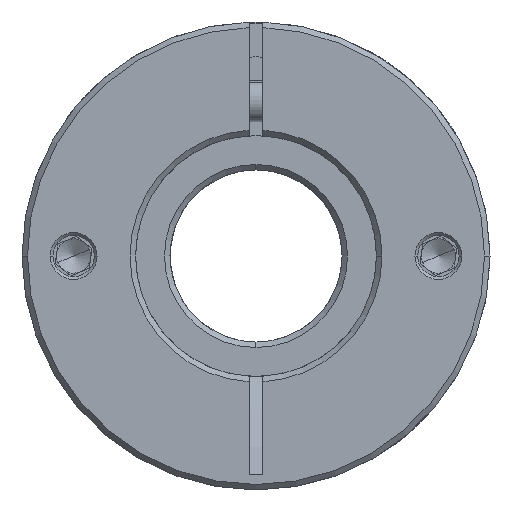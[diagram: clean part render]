
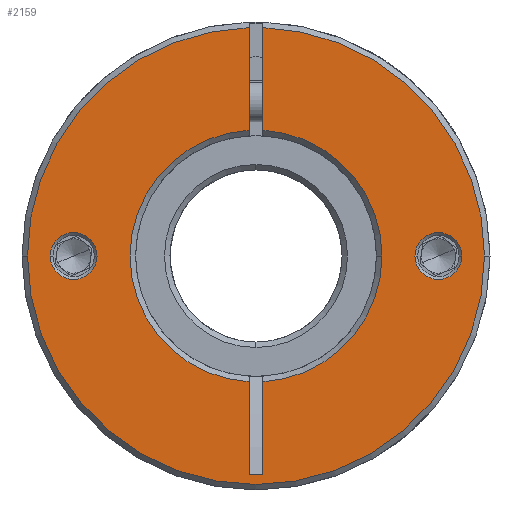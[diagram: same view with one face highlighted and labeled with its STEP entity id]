
A CAD part, front view. The second image highlights one B-rep face of the part: STEP entity #2159.
In plain terms, the highlighted planar face has unit normal (0, -1, 0).
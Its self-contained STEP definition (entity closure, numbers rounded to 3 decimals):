
#41 = DIRECTION ( 'NONE',  ( 0., 1., 0. ) ) ;
#98 = VERTEX_POINT ( 'NONE', #4756 ) ;
#114 = DIRECTION ( 'NONE',  ( 0., 1., 0. ) ) ;
#186 = DIRECTION ( 'NONE',  ( 0., 0., -1. ) ) ;
#209 = ORIENTED_EDGE ( 'NONE', *, *, #2574, .F. ) ;
#240 = CARTESIAN_POINT ( 'NONE',  ( -3.735, -47.045, 49.727 ) ) ;
#310 = EDGE_CURVE ( 'NONE', #11961, #12523, #12232, .T. ) ;
#316 = CIRCLE ( 'NONE', #4398, 18.3 ) ;
#349 = VERTEX_POINT ( 'NONE', #13326 ) ;
#420 = DIRECTION ( 'NONE',  ( 0., 0., -1. ) ) ;
#776 = ORIENTED_EDGE ( 'NONE', *, *, #11188, .T. ) ;
#827 = LINE ( 'NONE', #7359, #5605 ) ;
#919 = LINE ( 'NONE', #10530, #9726 ) ;
#974 = DIRECTION ( 'NONE',  ( 1., 0., 0. ) ) ;
#1081 = LINE ( 'NONE', #12415, #5064 ) ;
#1167 = DIRECTION ( 'NONE',  ( 0., -1., 0. ) ) ;
#1281 = CARTESIAN_POINT ( 'NONE',  ( -2.735, -47.045, 68. ) ) ;
#1319 = VERTEX_POINT ( 'NONE', #4258 ) ;
#1333 = DIRECTION ( 'NONE',  ( 1., 0., 0. ) ) ;
#1337 = ORIENTED_EDGE ( 'NONE', *, *, #8730, .F. ) ;
#1562 = CARTESIAN_POINT ( 'NONE',  ( -2.735, -47.045, 68. ) ) ;
#1802 = CIRCLE ( 'NONE', #8406, 33.2 ) ;
#1808 = EDGE_CURVE ( 'NONE', #98, #6055, #12670, .T. ) ;
#1875 = ORIENTED_EDGE ( 'NONE', *, *, #5593, .T. ) ;
#2044 = AXIS2_PLACEMENT_3D ( 'NONE', #2512, #10560, #3531 ) ;
#2142 = ORIENTED_EDGE ( 'NONE', *, *, #11455, .T. ) ;
#2159 = ADVANCED_FACE ( 'NONE', ( #10552, #12162, #5743 ), #12471, .T. ) ;
#2268 = DIRECTION ( 'NONE',  ( 0., 0., -1. ) ) ;
#2319 = ORIENTED_EDGE ( 'NONE', *, *, #310, .T. ) ;
#2439 = DIRECTION ( 'NONE',  ( 0., 1., 0. ) ) ;
#2512 = CARTESIAN_POINT ( 'NONE',  ( 23.765, -47.045, 68. ) ) ;
#2556 = DIRECTION ( 'NONE',  ( 1., 0., 0. ) ) ;
#2574 = EDGE_CURVE ( 'NONE', #10660, #13300, #1081, .T. ) ;
#2642 = CARTESIAN_POINT ( 'NONE',  ( 15.565, -47.045, 68. ) ) ;
#2727 = EDGE_CURVE ( 'NONE', #5899, #12094, #316, .T. ) ;
#2783 = AXIS2_PLACEMENT_3D ( 'NONE', #7070, #8104, #974 ) ;
#3112 = LINE ( 'NONE', #6334, #9838 ) ;
#3137 = DIRECTION ( 'NONE',  ( 1., 0., 0. ) ) ;
#3155 = ORIENTED_EDGE ( 'NONE', *, *, #9253, .T. ) ;
#3207 = DIRECTION ( 'NONE',  ( 1., 0., 0. ) ) ;
#3212 = DIRECTION ( 'NONE',  ( 0., 0., -1. ) ) ;
#3353 = DIRECTION ( 'NONE',  ( -1., 0., 0. ) ) ;
#3470 = CIRCLE ( 'NONE', #9022, 3.4 ) ;
#3531 = DIRECTION ( 'NONE',  ( 1., 0., 0. ) ) ;
#3603 = AXIS2_PLACEMENT_3D ( 'NONE', #10249, #114, #5163 ) ;
#3765 = EDGE_CURVE ( 'NONE', #6530, #13300, #827, .T. ) ;
#3934 = ORIENTED_EDGE ( 'NONE', *, *, #7180, .T. ) ;
#4002 = ORIENTED_EDGE ( 'NONE', *, *, #2727, .T. ) ;
#4125 = LINE ( 'NONE', #11298, #12824 ) ;
#4258 = CARTESIAN_POINT ( 'NONE',  ( -3.735, -47.045, 101.185 ) ) ;
#4278 = CARTESIAN_POINT ( 'NONE',  ( -1.735, -47.045, 36.279 ) ) ;
#4291 = CARTESIAN_POINT ( 'NONE',  ( 23.765, -47.045, 68. ) ) ;
#4398 = AXIS2_PLACEMENT_3D ( 'NONE', #1562, #8732, #2556 ) ;
#4756 = CARTESIAN_POINT ( 'NONE',  ( -35.935, -47.045, 68. ) ) ;
#4864 = CARTESIAN_POINT ( 'NONE',  ( -1.735, -47.045, 49.727 ) ) ;
#4940 = VERTEX_POINT ( 'NONE', #11816 ) ;
#5035 = EDGE_LOOP ( 'NONE', ( #2319, #3934 ) ) ;
#5064 = VECTOR ( 'NONE', #3212, 1000. ) ;
#5147 = AXIS2_PLACEMENT_3D ( 'NONE', #5360, #1167, #10570 ) ;
#5163 = DIRECTION ( 'NONE',  ( 1., 0., 0. ) ) ;
#5248 = CARTESIAN_POINT ( 'NONE',  ( -2.735, -47.045, 68. ) ) ;
#5360 = CARTESIAN_POINT ( 'NONE',  ( -2.735, -47.045, 68. ) ) ;
#5362 = EDGE_CURVE ( 'NONE', #6055, #4940, #1802, .T. ) ;
#5593 = EDGE_CURVE ( 'NONE', #1319, #98, #7247, .T. ) ;
#5605 = VECTOR ( 'NONE', #3353, 1000. ) ;
#5643 = DIRECTION ( 'NONE',  ( 1., 0., 0. ) ) ;
#5743 = FACE_OUTER_BOUND ( 'NONE', #12366, .T. ) ;
#5809 = EDGE_CURVE ( 'NONE', #7537, #8860, #8214, .T. ) ;
#5888 = CARTESIAN_POINT ( 'NONE',  ( 30.465, -47.045, 68. ) ) ;
#5899 = VERTEX_POINT ( 'NONE', #2642 ) ;
#5997 = CARTESIAN_POINT ( 'NONE',  ( -32.635, -47.045, 68. ) ) ;
#6055 = VERTEX_POINT ( 'NONE', #5888 ) ;
#6124 = VERTEX_POINT ( 'NONE', #9147 ) ;
#6175 = CARTESIAN_POINT ( 'NONE',  ( -2.735, -47.045, 68. ) ) ;
#6267 = ORIENTED_EDGE ( 'NONE', *, *, #8829, .T. ) ;
#6334 = CARTESIAN_POINT ( 'NONE',  ( -1.735, -47.045, 68. ) ) ;
#6530 = VERTEX_POINT ( 'NONE', #4278 ) ;
#7039 = CIRCLE ( 'NONE', #9462, 3.4 ) ;
#7070 = CARTESIAN_POINT ( 'NONE',  ( -2.735, -47.045, 68. ) ) ;
#7180 = EDGE_CURVE ( 'NONE', #12523, #11961, #7039, .T. ) ;
#7247 = CIRCLE ( 'NONE', #13048, 33.2 ) ;
#7359 = CARTESIAN_POINT ( 'NONE',  ( -3.735, -47.045, 36.279 ) ) ;
#7460 = DIRECTION ( 'NONE',  ( 0., -1., 0. ) ) ;
#7537 = VERTEX_POINT ( 'NONE', #11850 ) ;
#7956 = DIRECTION ( 'NONE',  ( 0., -1., 0. ) ) ;
#8104 = DIRECTION ( 'NONE',  ( 0., 1., 0. ) ) ;
#8214 = CIRCLE ( 'NONE', #2044, 3.4 ) ;
#8293 = ORIENTED_EDGE ( 'NONE', *, *, #1808, .T. ) ;
#8406 = AXIS2_PLACEMENT_3D ( 'NONE', #1281, #7460, #1333 ) ;
#8410 = CARTESIAN_POINT ( 'NONE',  ( -3.735, -47.045, 36.279 ) ) ;
#8562 = CIRCLE ( 'NONE', #12311, 18.3 ) ;
#8574 = CARTESIAN_POINT ( 'NONE',  ( -29.235, -47.045, 68. ) ) ;
#8730 = EDGE_CURVE ( 'NONE', #1319, #349, #4125, .T. ) ;
#8732 = DIRECTION ( 'NONE',  ( 0., 1., 0. ) ) ;
#8829 = EDGE_CURVE ( 'NONE', #12094, #6530, #919, .T. ) ;
#8860 = VERTEX_POINT ( 'NONE', #10437 ) ;
#8891 = CARTESIAN_POINT ( 'NONE',  ( -2.735, -47.045, 68. ) ) ;
#9004 = EDGE_LOOP ( 'NONE', ( #3155, #12625 ) ) ;
#9022 = AXIS2_PLACEMENT_3D ( 'NONE', #4291, #12363, #12319 ) ;
#9147 = CARTESIAN_POINT ( 'NONE',  ( -1.735, -47.045, 86.273 ) ) ;
#9253 = EDGE_CURVE ( 'NONE', #8860, #7537, #3470, .T. ) ;
#9462 = AXIS2_PLACEMENT_3D ( 'NONE', #8574, #2439, #5643 ) ;
#9726 = VECTOR ( 'NONE', #2268, 1000. ) ;
#9838 = VECTOR ( 'NONE', #186, 1000. ) ;
#10249 = CARTESIAN_POINT ( 'NONE',  ( -29.235, -47.045, 68. ) ) ;
#10417 = ORIENTED_EDGE ( 'NONE', *, *, #5362, .T. ) ;
#10437 = CARTESIAN_POINT ( 'NONE',  ( 27.165, -47.045, 68. ) ) ;
#10530 = CARTESIAN_POINT ( 'NONE',  ( -1.735, -47.045, 68. ) ) ;
#10552 = FACE_BOUND ( 'NONE', #9004, .T. ) ;
#10560 = DIRECTION ( 'NONE',  ( 0., 1., 0. ) ) ;
#10570 = DIRECTION ( 'NONE',  ( 1., 0., 0. ) ) ;
#10621 = EDGE_CURVE ( 'NONE', #10660, #349, #10805, .T. ) ;
#10660 = VERTEX_POINT ( 'NONE', #240 ) ;
#10805 = CIRCLE ( 'NONE', #2783, 18.3 ) ;
#10914 = AXIS2_PLACEMENT_3D ( 'NONE', #5248, #12313, #3207 ) ;
#10947 = DIRECTION ( 'NONE',  ( 1., 0., 0. ) ) ;
#11188 = EDGE_CURVE ( 'NONE', #4940, #6124, #3112, .T. ) ;
#11298 = CARTESIAN_POINT ( 'NONE',  ( -3.735, -47.045, 68. ) ) ;
#11455 = EDGE_CURVE ( 'NONE', #6124, #5899, #8562, .T. ) ;
#11798 = CARTESIAN_POINT ( 'NONE',  ( -25.835, -47.045, 68. ) ) ;
#11816 = CARTESIAN_POINT ( 'NONE',  ( -1.735, -47.045, 101.185 ) ) ;
#11850 = CARTESIAN_POINT ( 'NONE',  ( 20.365, -47.045, 68. ) ) ;
#11961 = VERTEX_POINT ( 'NONE', #11798 ) ;
#12094 = VERTEX_POINT ( 'NONE', #4864 ) ;
#12162 = FACE_BOUND ( 'NONE', #5035, .T. ) ;
#12232 = CIRCLE ( 'NONE', #3603, 3.4 ) ;
#12311 = AXIS2_PLACEMENT_3D ( 'NONE', #6175, #41, #3137 ) ;
#12313 = DIRECTION ( 'NONE',  ( 0., -1., 0. ) ) ;
#12319 = DIRECTION ( 'NONE',  ( 1., 0., 0. ) ) ;
#12363 = DIRECTION ( 'NONE',  ( 0., 1., 0. ) ) ;
#12366 = EDGE_LOOP ( 'NONE', ( #1337, #1875, #8293, #10417, #776, #2142, #4002, #6267, #12878, #209, #12714 ) ) ;
#12415 = CARTESIAN_POINT ( 'NONE',  ( -3.735, -47.045, 68. ) ) ;
#12471 = PLANE ( 'NONE',  #5147 ) ;
#12523 = VERTEX_POINT ( 'NONE', #5997 ) ;
#12625 = ORIENTED_EDGE ( 'NONE', *, *, #5809, .T. ) ;
#12670 = CIRCLE ( 'NONE', #10914, 33.2 ) ;
#12714 = ORIENTED_EDGE ( 'NONE', *, *, #10621, .T. ) ;
#12824 = VECTOR ( 'NONE', #420, 1000. ) ;
#12878 = ORIENTED_EDGE ( 'NONE', *, *, #3765, .T. ) ;
#13048 = AXIS2_PLACEMENT_3D ( 'NONE', #8891, #7956, #10947 ) ;
#13300 = VERTEX_POINT ( 'NONE', #8410 ) ;
#13326 = CARTESIAN_POINT ( 'NONE',  ( -3.735, -47.045, 86.273 ) ) ;
